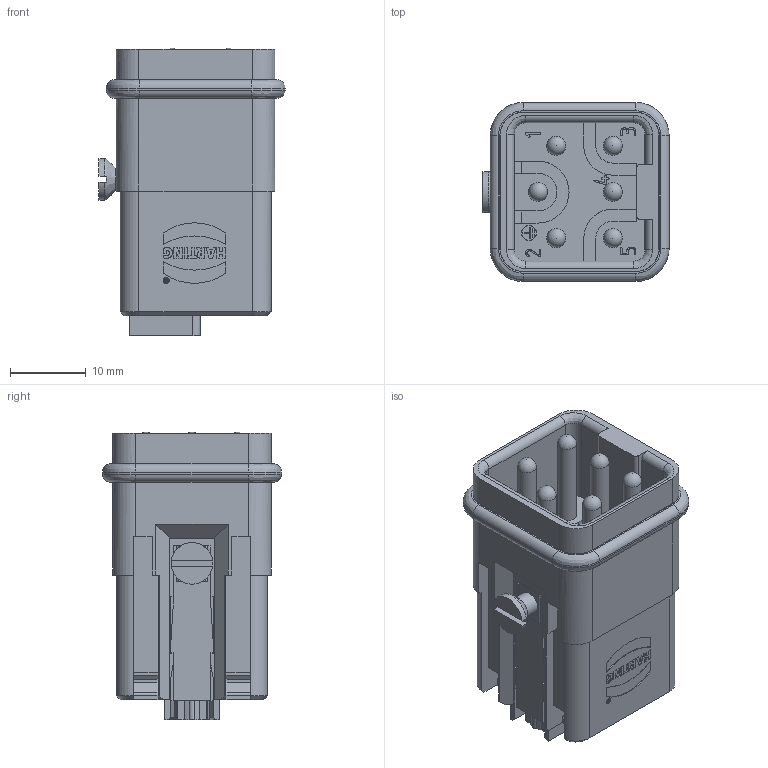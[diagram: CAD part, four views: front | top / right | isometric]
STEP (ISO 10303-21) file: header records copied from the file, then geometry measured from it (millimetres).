
FILE_DESCRIPTION(/* description */ (''),/* implementation_level */ '2;1');
FILE_NAME(/* name */ '100187628ugm000_d.stp',/* time_stamp */ '2022-03-11T16:19:24+01:00',/* author */ (''),/* organization */ (''),/* preprocessor_version */ 'ST-DEVELOPER v16.7',/* originating_system */ 'SIEMENS PLM Software NX 1911',/* authorisation */ '');
FILE_SCHEMA (('AUTOMOTIVE_DESIGN { 1 0 10303 214 3 1 1 1 }'));
Length unit declared in the file: millimetre
Products named in the file (1): 100187628ugm000_d
Bounding box: 24.65 x 23.7 x 38.05 mm (x, y, z)
Volume: 9891.9 mm3; surface area: 9323.2 mm2
Topology: 2 solids, 4 shells, 937 faces, 2680 edges, 1905 vertices
Faces by surface type: plane 665, cylinder 133, bspline 81, extrusion 32, cone 20, sphere 6
Full cylindrical faces by diameter (mm): 0.557 x1, 0.817 x1, 1.95 x2, 2 x8, 2.3 x6, 2.5 x6, 3 x2, 3.1 x7, 3.8 x6
Entity records: 39055 total; most frequent: CARTESIAN_POINT 9436, ORIENTED_EDGE 4882, DIRECTION 4375, EDGE_CURVE 2441, VECTOR 1923, LINE 1891, VERTEX_POINT 1634, AXIS2_PLACEMENT_3D 1226
